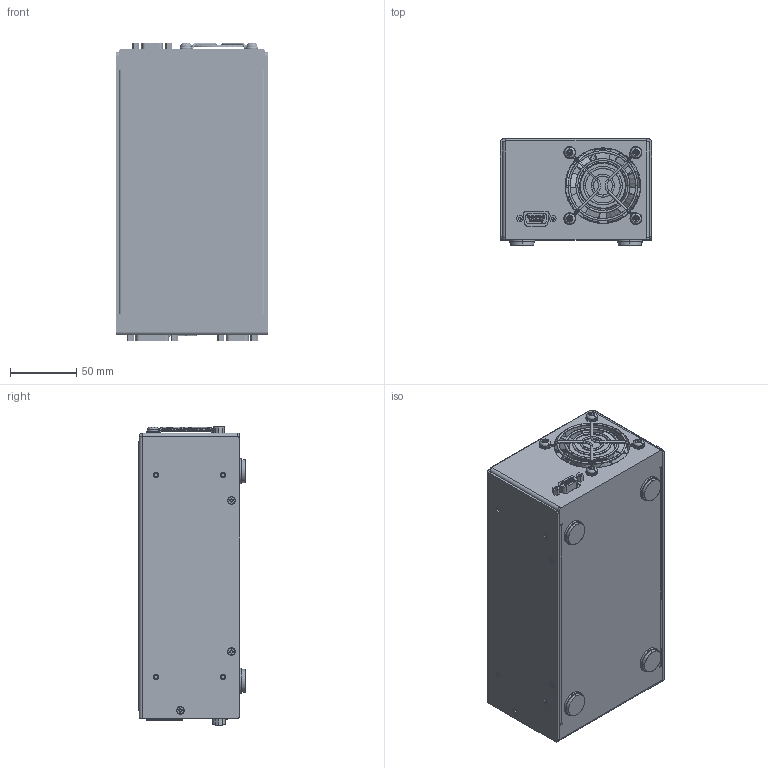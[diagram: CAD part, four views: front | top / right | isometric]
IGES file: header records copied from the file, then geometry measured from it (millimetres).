
Start section: SolidWorks IGES file using analytic representation for surfaces
Global section: file name: C:\Users\Mike\Dropbox\Mechanical Engr\Development Projects (P)\485 LaserPak\Customer Model Development\Step 4 - 485-LaserSource.IGS; native system: SolidWorks 2014; preprocessor: SolidWorks 2014; author: Mike; date: 150902.210939; units: inch
Bounding box: 114.3 x 80.52 x 225.53 mm (x, y, z)
Surface area: 126081.4 mm2 (no closed solid volume)
Topology: 0 solids, 0 shells, 2436 faces, 27519 edges, 27498 vertices
Faces by surface type: bspline 1772, revolution 664
